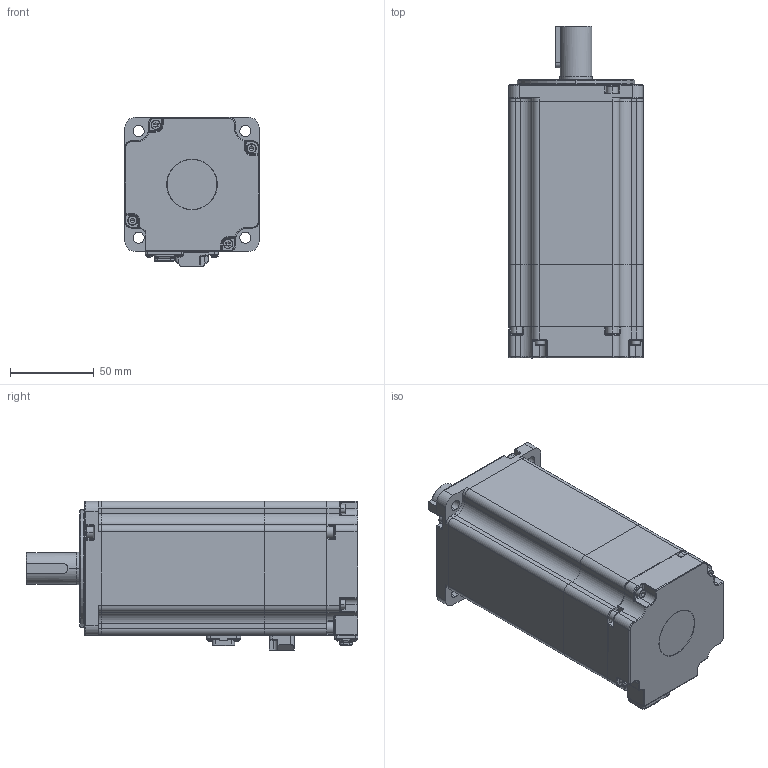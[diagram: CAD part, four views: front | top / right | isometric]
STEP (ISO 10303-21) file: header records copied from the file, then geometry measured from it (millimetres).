
FILE_DESCRIPTION (( 'STEP AP214' ), '1' );
FILE_NAME ('56长铁芯 带刹车 中惯量.STEP', '2021-09-15T11:34:52', ( '' ), ( '' ), 'SwSTEP 2.0', 'SolidWorks 2014', '' );
FILE_SCHEMA (( 'AUTOMOTIVE_DESIGN' ));
Length unit declared in the file: millimetre
Products named in the file (14): 蚐猾 D00B999YF5-TC 20-30-5-1; 囀鞠褒 ISO 4762 M3 x 12 --- 12N; 80#陔綴傷裔-价陬遴; 囀鞠褒 ISO 4762 M4 x12--20201221; 56长铁芯 带刹车 中惯量; 750W隅赽郪璃; SC40陔晤鎢ん瑤脣釱sc-mc7p-a6-zhichuxianchazuo; 1000W中惯量电机-刹车轴_1; 40#价陬堤盄揤盄裔; 60-80蚳蚚雄薯脣釱-sc-mc6p-ac-goubanchazuo; 80#陔晤鎢ん欶; 80#陔ヶ傷裔; 普通型 平键   C 6x6x25 带M3起键螺钉孔; 750w儂褲
Assembly tree (23 placements, depth 3):
  56长铁芯 带刹车 中惯量
    750W隅赽郪璃
      750w儂褲
      80#陔ヶ傷裔
      60-80蚳蚚雄薯脣釱-sc-mc6p-ac-goubanchazuo
    80#陔晤鎢ん欶
    SC40陔晤鎢ん瑤脣釱sc-mc7p-a6-zhichuxianchazuo
    蚐猾 D00B999YF5-TC 20-30-5-1
    囀鞠褒 ISO 4762 M4 x12--20201221  x8
    普通型 平键   C 6x6x25 带M3起键螺钉孔
    囀鞠褒 ISO 4762 M3 x 12 --- 12N  x4
    80#陔綴傷裔-价陬遴
    1000W中惯量电机-刹车轴_1
    40#价陬堤盄揤盄裔
Bounding box: 80 x 198 x 89 mm (x, y, z)
Volume: 307921 mm3; surface area: 154063.2 mm2
Topology: 31 solids, 31 shells, 4289 faces, 10650 edges, 6409 vertices
Faces by surface type: plane 1908, cylinder 1442, bspline 423, torus 213, cone 212, sphere 91
Entity records: 190812 total; most frequent: CARTESIAN_POINT 52717, ORIENTED_EDGE 19748, DIRECTION 19036, EDGE_CURVE 9874, AXIS2_PLACEMENT_3D 6602, VERTEX_POINT 6053, VECTOR 5832, LINE 5832
